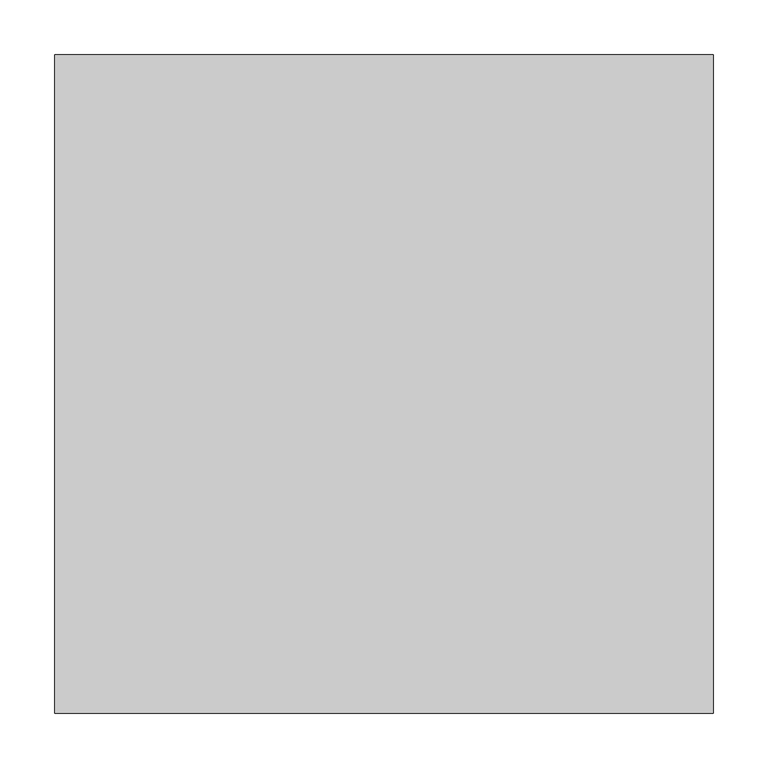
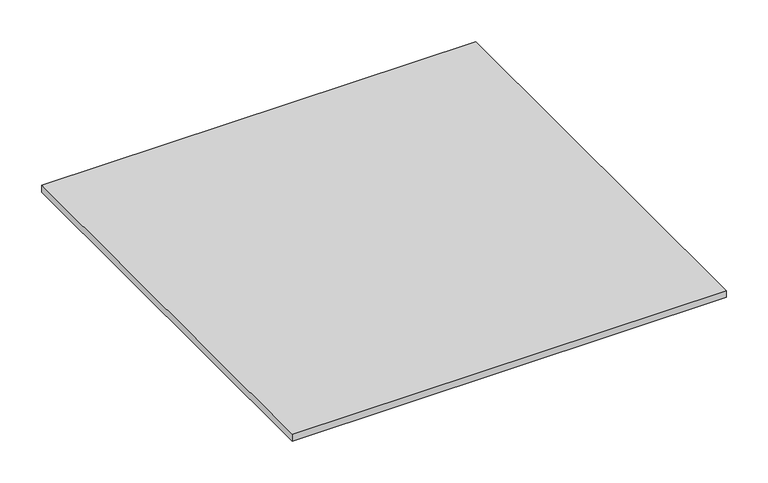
"""IFC4 building model written with IfcOpenShell, lengths in millimetres: proxy geometry, GM_Резиновый коврик : 600х600_мм."""

from ifc_helpers import new_model, si_unit, origin, origin_with_axes, place, context, project, spatial, polyline, outline, extrude, source, transform, mapped, element, save


def generic_models_28f3a7fe(model_context):
    return source(origin(), model_context, "Body", "SweptSolid", [
        extrude(outline(polyline([(300.0, 300.0), (300.0, -300.0), (-300.0, -300.0), (-300.0, 300.0), (300.0, 300.0)])), origin_with_axes(), (0.0, 0.0, 1.0), 10.0),
    ])


if __name__ == "__main__":
    model = new_model("IFC4")
    model_context = context("Model", 3, world=origin())
    ifc_project = project(units=[si_unit("LENGTHUNIT", "METRE", prefix="MILLI")], contexts=[model_context])
    site = spatial("IfcSite", under=ifc_project)
    building = spatial("IfcBuilding", under=site)
    placement = place(None, origin())
    generic_models_shape = generic_models_28f3a7fe(model_context)
    element("IfcBuildingElementProxy", 1, Name="GM_Резиновый коврик : 600х600_мм", ObjectType="GM_Резиновый коврик : 600х600_мм", at=placement, inside=building, context=model_context, shape_type="MappedRepresentation", body=[
        mapped(generic_models_shape, transform((0.0, 0.0, 0.0), x_axis=(1.0, 0.0, 0.0), y_axis=(0.0, 1.0, 0.0), z_axis=(0.0, 0.0, 1.0))),
    ])
    save(model, "model.ifc")
